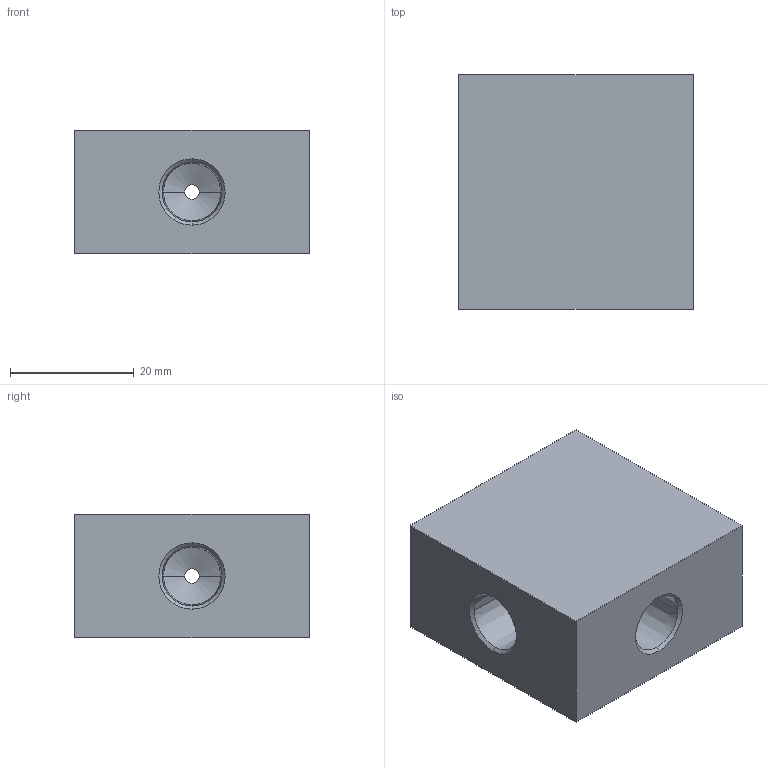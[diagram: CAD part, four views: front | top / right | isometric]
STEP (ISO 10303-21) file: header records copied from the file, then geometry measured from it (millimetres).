
FILE_DESCRIPTION (( 'STEP AP203' ), '1' );
FILE_NAME ('FTPCS02.STEP', '2026-06-26T01:06:19', ( 'USER' ), ( '' ), 'SwSTEP 2.0', 'SolidWorks 2023', '' );
FILE_SCHEMA (( 'CONFIG_CONTROL_DESIGN' ));
Length unit declared in the file: millimetre
Products named in the file (1): FTPCS02
Bounding box: 38 x 38 x 20 mm (x, y, z)
Volume: 25844.5 mm3; surface area: 7234.2 mm2
Topology: 1 solids, 1 shells, 46 faces, 108 edges, 62 vertices
Faces by surface type: cone 24, cylinder 16, plane 6
Entity records: 1389 total; most frequent: DIRECTION 242, CARTESIAN_POINT 241, ORIENTED_EDGE 216, EDGE_CURVE 108, AXIS2_PLACEMENT_3D 95, VERTEX_POINT 62, VECTOR 52, LINE 52
